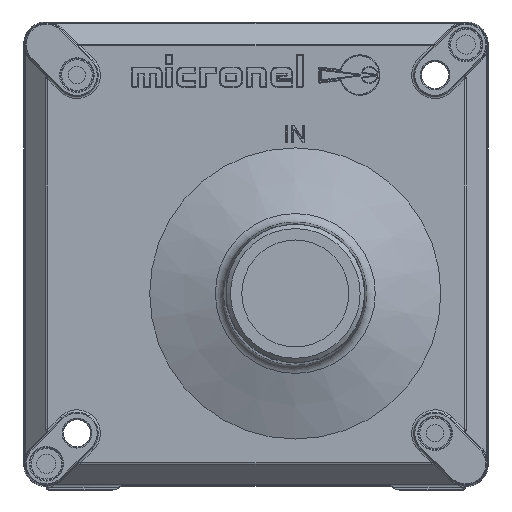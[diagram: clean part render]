
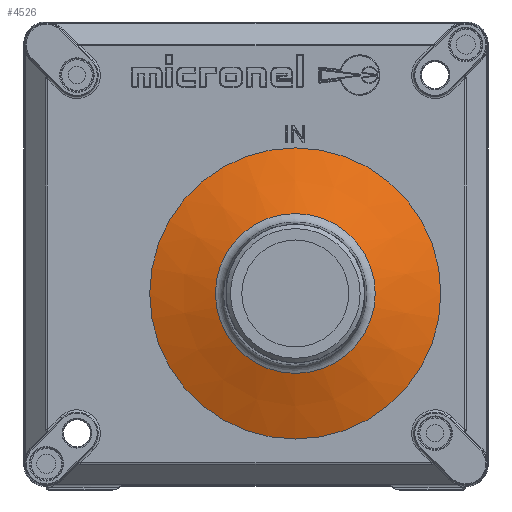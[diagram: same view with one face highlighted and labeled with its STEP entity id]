
A CAD part, front view. The second image highlights one B-rep face of the part: STEP entity #4526.
In plain terms, the highlighted conical face has half-angle 69.444 degrees and reference radius 36 mm.
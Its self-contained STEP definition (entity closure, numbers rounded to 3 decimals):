
#732=CONICAL_SURFACE('',#21664,36.,69.444);
#4296=FACE_BOUND('',#7636,.T.);
#4297=FACE_BOUND('',#7637,.T.);
#4526=ADVANCED_FACE('',(#4296,#4297),#732,.T.);
#7636=EDGE_LOOP('',(#9434));
#7637=EDGE_LOOP('',(#9435));
#9434=ORIENTED_EDGE('',*,*,#17491,.T.);
#9435=ORIENTED_EDGE('',*,*,#17407,.F.);
#15608=VERTEX_POINT('',#30707);
#15686=VERTEX_POINT('',#31265);
#17407=EDGE_CURVE('',#15608,#15608,#20409,.T.);
#17491=EDGE_CURVE('',#15686,#15686,#20423,.T.);
#20409=CIRCLE('',#21637,33.333);
#20423=CIRCLE('',#21663,18.3);
#21637=AXIS2_PLACEMENT_3D('',#30706,#24383,#24384);
#21663=AXIS2_PLACEMENT_3D('',#31264,#24459,#24460);
#21664=AXIS2_PLACEMENT_3D('',#31266,#24461,#24462);
#24383=DIRECTION('',(0.,1.,0.));
#24384=DIRECTION('',(0.,0.,-1.));
#24459=DIRECTION('',(0.,1.,0.));
#24460=DIRECTION('',(0.,0.,1.));
#24461=DIRECTION('',(0.,1.,0.));
#24462=DIRECTION('',(0.,0.,1.));
#30706=CARTESIAN_POINT('',(0.,-93.42,0.));
#30707=CARTESIAN_POINT('',(0.,-93.42,-33.333));
#31264=CARTESIAN_POINT('',(0.,-99.058,0.));
#31265=CARTESIAN_POINT('',(0.,-99.058,18.3));
#31266=CARTESIAN_POINT('',(0.,-92.42,0.));
